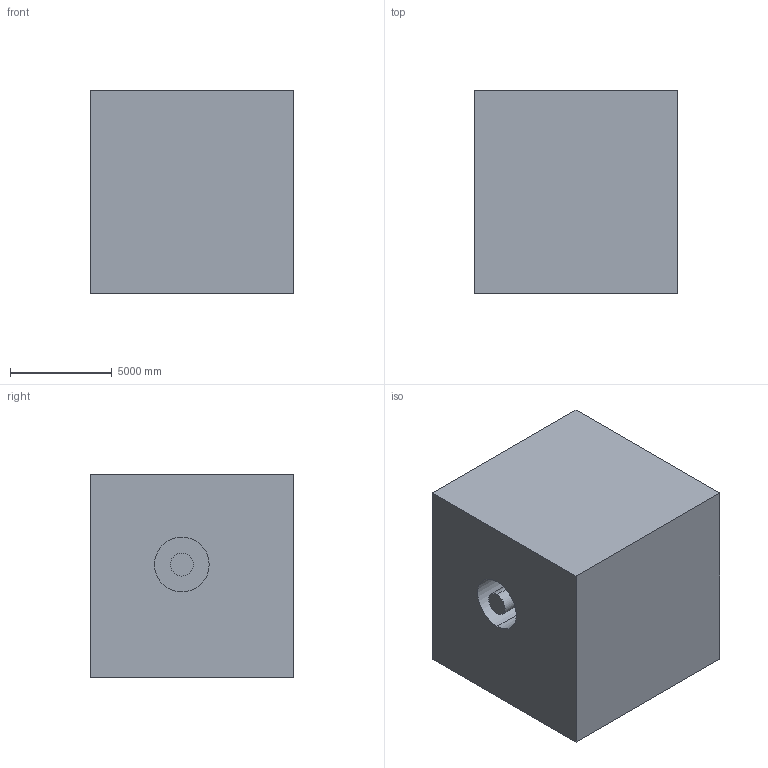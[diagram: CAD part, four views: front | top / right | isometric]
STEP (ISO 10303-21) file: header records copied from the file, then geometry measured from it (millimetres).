
FILE_DESCRIPTION (( 'STEP AP203' ), '1' );
FILE_NAME ('84.STEP', '2022-07-28T13:34:34', ( 'user' ), ( '' ), 'SwSTEP 2.0', 'SolidWorks 2021', '' );
FILE_SCHEMA (( 'CONFIG_CONTROL_DESIGN' ));
Length unit declared in the file: centimetre
Products named in the file (1): 84
Bounding box: 10000 x 10000 x 10000 mm (x, y, z)
Volume: 822735697130.7 mm3; surface area: 794006129.1 mm2
Topology: 1 solids, 1 shells, 16 faces, 33 edges, 22 vertices
Faces by surface type: plane 12, cylinder 4
Entity records: 502 total; most frequent: DIRECTION 75, CARTESIAN_POINT 72, ORIENTED_EDGE 66, EDGE_CURVE 33, LINE 25, VECTOR 25, AXIS2_PLACEMENT_3D 25, VERTEX_POINT 22
